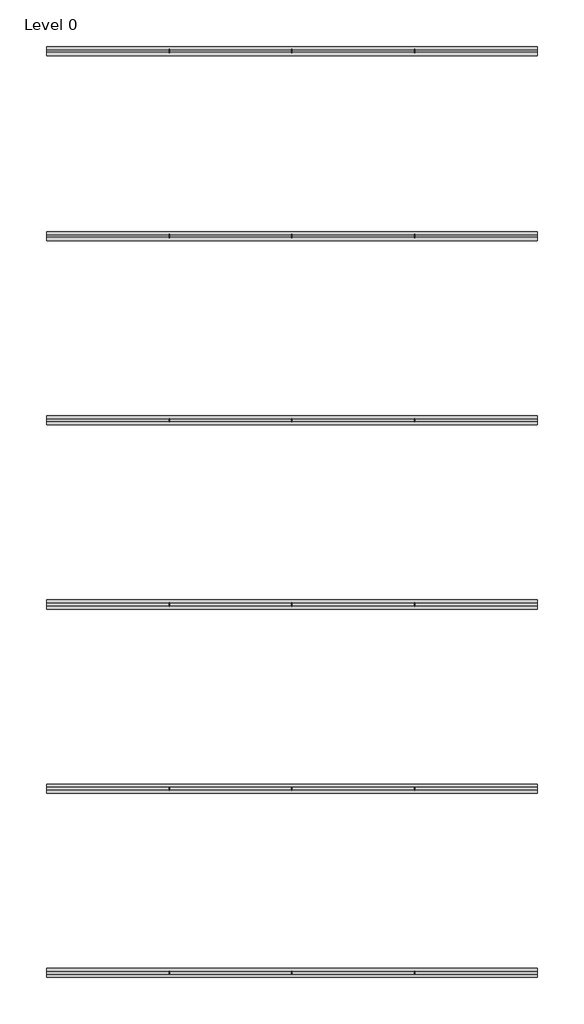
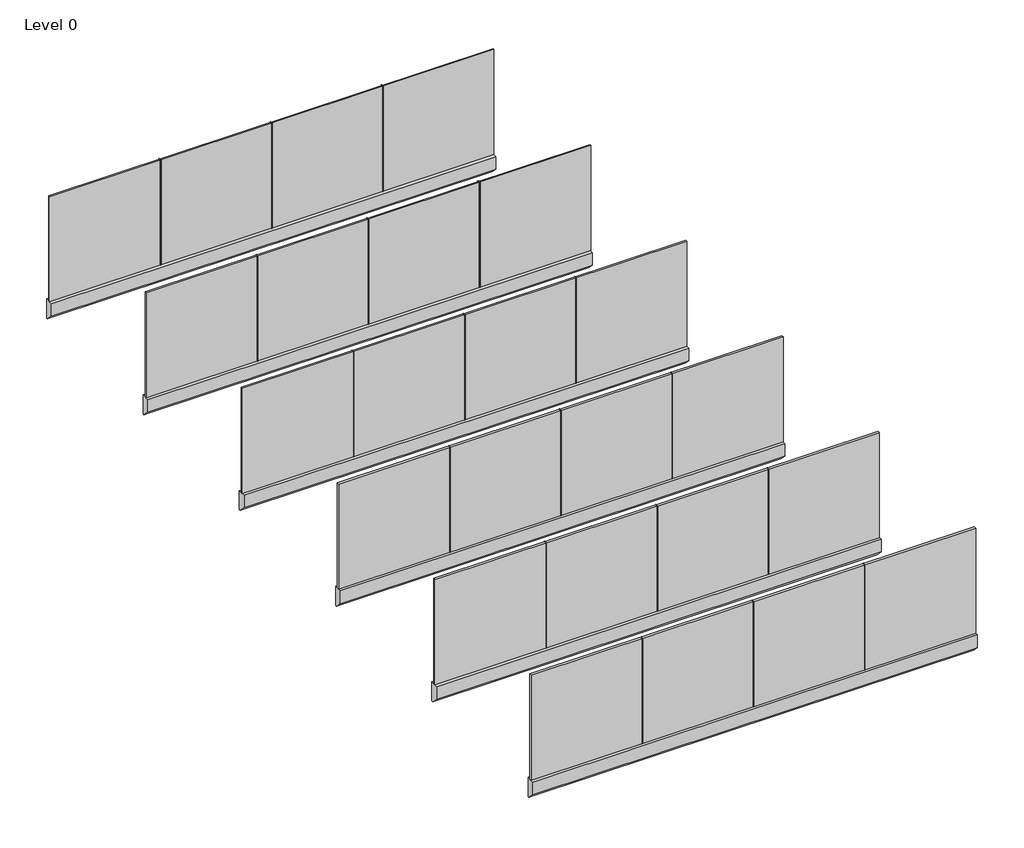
# One storey: 6 railings.
"""IFC4 building model written with IfcOpenShell, lengths in millimetres."""

from ifc_helpers import new_model, si_unit, frame, origin, place, context, project, spatial, polyline, outline, extrude, element, save

model = new_model("IFC4")

# Units and contexts
model_context = context("Model", 3, world=origin())
ifc_project = project(units=[si_unit("LENGTHUNIT", "METRE", prefix="MILLI")], contexts=[model_context])

# Site, building, storey
site = spatial("IfcSite", under=ifc_project)
building = spatial("IfcBuilding", under=site)
storey = spatial("IfcBuildingStorey", under=building, Name="Level 0", Elevation=0.0)

# Railings
placement = place(None, origin())
element("IfcRailing", 1, ObjectType="NBS_PureVistaLtd_BalustradeAndGuardingSystem_PoziglazesideDrilledBalustrade_12mmglass", at=placement, inside=storey, context=model_context, shape_type="SweptSolid", body=[
    extrude(outline(polyline([(-2000.0, -31.3), (-2000.0, -19.3), (2000.0, -19.3), (2000.0, -31.3), (-2000.0, -31.3)])), frame((0.0, 0.0, 119.5), z_axis=(0.0, 0.0, 1.0), x_axis=(1.0, 0.0, 0.0)), (0.0, 0.0, 1.0), 1000.0),
    extrude(outline(polyline([(-62.75, 119.5), (11.75, 119.5), (11.75, -62.5), (-0.25, -62.5), (-62.75, 0.0), (-62.75, 119.5)])), frame((-2000.0, 0.0, 0.0), z_axis=(1.0, 0.0, 0.0), x_axis=(0.0, 1.0, 0.0)), (0.0, 0.0, 1.0), 4000.0),
    extrude(outline(polyline([(998.0, -12.3), (1002.0, -12.3), (1002.0, -38.3), (998.0, -38.3), (998.0, -12.3)])), frame((0.0, 0.0, 119.5), z_axis=(0.0, 0.0, 1.0), x_axis=(1.0, 0.0, 0.0)), (0.0, 0.0, 1.0), 1001.0),
    extrude(outline(polyline([(-2.0, -12.3), (2.0, -12.3), (2.0, -38.3), (-2.0, -38.3), (-2.0, -12.3)])), frame((0.0, 0.0, 119.5), z_axis=(0.0, 0.0, 1.0), x_axis=(1.0, 0.0, 0.0)), (0.0, 0.0, 1.0), 1001.0),
    extrude(outline(polyline([(-1002.0, -12.3), (-998.0, -12.3), (-998.0, -38.3), (-1002.0, -38.3), (-1002.0, -12.3)])), frame((0.0, 0.0, 119.5), z_axis=(0.0, 0.0, 1.0), x_axis=(1.0, 0.0, 0.0)), (0.0, 0.0, 1.0), 1001.0),
])
element("IfcRailing", 2, ObjectType="NBS_PureVistaLtd_BalustradeAndGuardingSystem_PoziglazesideDrilledBalustrade_15mmglass", at=placement, inside=storey, context=model_context, shape_type="SweptSolid", body=[
    extrude(outline(polyline([(-2000.0, -1538.8), (-2000.0, -1523.8), (2000.0, -1523.8), (2000.0, -1538.8), (-2000.0, -1538.8)])), frame((0.0, 0.0, 119.5), z_axis=(0.0, 0.0, 1.0), x_axis=(1.0, 0.0, 0.0)), (0.0, 0.0, 1.0), 1000.0),
    extrude(outline(polyline([(-1568.75, 119.5), (-1494.25, 119.5), (-1494.25, -62.5), (-1506.25, -62.5), (-1568.75, 0.0), (-1568.75, 119.5)])), frame((-2000.0, 0.0, 0.0), z_axis=(1.0, 0.0, 0.0), x_axis=(0.0, 1.0, 0.0)), (0.0, 0.0, 1.0), 4000.0),
    extrude(outline(polyline([(998.0, -1518.3), (1002.0, -1518.3), (1002.0, -1544.3), (998.0, -1544.3), (998.0, -1518.3)])), frame((0.0, 0.0, 119.5), z_axis=(0.0, 0.0, 1.0), x_axis=(1.0, 0.0, 0.0)), (0.0, 0.0, 1.0), 1001.0),
    extrude(outline(polyline([(-2.0, -1518.3), (2.0, -1518.3), (2.0, -1544.3), (-2.0, -1544.3), (-2.0, -1518.3)])), frame((0.0, 0.0, 119.5), z_axis=(0.0, 0.0, 1.0), x_axis=(1.0, 0.0, 0.0)), (0.0, 0.0, 1.0), 1001.0),
    extrude(outline(polyline([(-1002.0, -1518.3), (-998.0, -1518.3), (-998.0, -1544.3), (-1002.0, -1544.3), (-1002.0, -1518.3)])), frame((0.0, 0.0, 119.5), z_axis=(0.0, 0.0, 1.0), x_axis=(1.0, 0.0, 0.0)), (0.0, 0.0, 1.0), 1001.0),
])
element("IfcRailing", 3, ObjectType="NBS_PureVistaLtd_BalustradeAndGuardingSystem_PoziglazesideDrilledBalustrade_17-5mmglass", at=placement, inside=storey, context=model_context, shape_type="SweptSolid", body=[
    extrude(outline(polyline([(-2000.0, -3040.05), (-2000.0, -3022.55), (2000.0, -3022.55), (2000.0, -3040.05), (-2000.0, -3040.05)])), frame((0.0, 0.0, 119.5), z_axis=(0.0, 0.0, 1.0), x_axis=(1.0, 0.0, 0.0)), (0.0, 0.0, 1.0), 1000.0),
    extrude(outline(polyline([(-3068.75, 119.5), (-2994.25, 119.5), (-2994.25, -62.5), (-3006.25, -62.5), (-3068.75, 0.0), (-3068.75, 119.5)])), frame((-2000.0, 0.0, 0.0), z_axis=(1.0, 0.0, 0.0), x_axis=(0.0, 1.0, 0.0)), (0.0, 0.0, 1.0), 4000.0),
    extrude(outline(polyline([(998.0, -3018.3), (1002.0, -3018.3), (1002.0, -3044.3), (998.0, -3044.3), (998.0, -3018.3)])), frame((0.0, 0.0, 119.5), z_axis=(0.0, 0.0, 1.0), x_axis=(1.0, 0.0, 0.0)), (0.0, 0.0, 1.0), 1001.0),
    extrude(outline(polyline([(-2.0, -3018.3), (2.0, -3018.3), (2.0, -3044.3), (-2.0, -3044.3), (-2.0, -3018.3)])), frame((0.0, 0.0, 119.5), z_axis=(0.0, 0.0, 1.0), x_axis=(1.0, 0.0, 0.0)), (0.0, 0.0, 1.0), 1001.0),
    extrude(outline(polyline([(-1002.0, -3018.3), (-998.0, -3018.3), (-998.0, -3044.3), (-1002.0, -3044.3), (-1002.0, -3018.3)])), frame((0.0, 0.0, 119.5), z_axis=(0.0, 0.0, 1.0), x_axis=(1.0, 0.0, 0.0)), (0.0, 0.0, 1.0), 1001.0),
])
element("IfcRailing", 4, ObjectType="NBS_PureVistaLtd_BalustradeAndGuardingSystem_PoziglazesideDrilledBalustrade_19mmglass", at=placement, inside=storey, context=model_context, shape_type="SweptSolid", body=[
    extrude(outline(polyline([(-2000.0, -4540.8), (-2000.0, -4521.8), (2000.0, -4521.8), (2000.0, -4540.8), (-2000.0, -4540.8)])), frame((0.0, 0.0, 119.5), z_axis=(0.0, 0.0, 1.0), x_axis=(1.0, 0.0, 0.0)), (0.0, 0.0, 1.0), 1000.0),
    extrude(outline(polyline([(-4568.75, 119.5), (-4494.25, 119.5), (-4494.25, -62.5), (-4506.25, -62.5), (-4568.75, 0.0), (-4568.75, 119.5)])), frame((-2000.0, 0.0, 0.0), z_axis=(1.0, 0.0, 0.0), x_axis=(0.0, 1.0, 0.0)), (0.0, 0.0, 1.0), 4000.0),
    extrude(outline(polyline([(998.0, -4518.3), (1002.0, -4518.3), (1002.0, -4544.3), (998.0, -4544.3), (998.0, -4518.3)])), frame((0.0, 0.0, 119.5), z_axis=(0.0, 0.0, 1.0), x_axis=(1.0, 0.0, 0.0)), (0.0, 0.0, 1.0), 1001.0),
    extrude(outline(polyline([(-2.0, -4518.3), (2.0, -4518.3), (2.0, -4544.3), (-2.0, -4544.3), (-2.0, -4518.3)])), frame((0.0, 0.0, 119.5), z_axis=(0.0, 0.0, 1.0), x_axis=(1.0, 0.0, 0.0)), (0.0, 0.0, 1.0), 1001.0),
    extrude(outline(polyline([(-1002.0, -4518.3), (-998.0, -4518.3), (-998.0, -4544.3), (-1002.0, -4544.3), (-1002.0, -4518.3)])), frame((0.0, 0.0, 119.5), z_axis=(0.0, 0.0, 1.0), x_axis=(1.0, 0.0, 0.0)), (0.0, 0.0, 1.0), 1001.0),
])
element("IfcRailing", 5, ObjectType="NBS_PureVistaLtd_BalustradeAndGuardingSystem_PoziglazesideDrilledBalustrade_21-5mmglass", at=placement, inside=storey, context=model_context, shape_type="SweptSolid", body=[
    extrude(outline(polyline([(-2000.0, -6042.05), (-2000.0, -6020.55), (2000.0, -6020.55), (2000.0, -6042.05), (-2000.0, -6042.05)])), frame((0.0, 0.0, 119.5), z_axis=(0.0, 0.0, 1.0), x_axis=(1.0, 0.0, 0.0)), (0.0, 0.0, 1.0), 1000.0),
    extrude(outline(polyline([(-6068.75, 119.5), (-5994.25, 119.5), (-5994.25, -62.5), (-6006.25, -62.5), (-6068.75, 0.0), (-6068.75, 119.5)])), frame((-2000.0, 0.0, 0.0), z_axis=(1.0, 0.0, 0.0), x_axis=(0.0, 1.0, 0.0)), (0.0, 0.0, 1.0), 4000.0),
    extrude(outline(polyline([(998.0, -6018.3), (1002.0, -6018.3), (1002.0, -6044.3), (998.0, -6044.3), (998.0, -6018.3)])), frame((0.0, 0.0, 119.5), z_axis=(0.0, 0.0, 1.0), x_axis=(1.0, 0.0, 0.0)), (0.0, 0.0, 1.0), 1001.0),
    extrude(outline(polyline([(-2.0, -6018.3), (2.0, -6018.3), (2.0, -6044.3), (-2.0, -6044.3), (-2.0, -6018.3)])), frame((0.0, 0.0, 119.5), z_axis=(0.0, 0.0, 1.0), x_axis=(1.0, 0.0, 0.0)), (0.0, 0.0, 1.0), 1001.0),
    extrude(outline(polyline([(-1002.0, -6018.3), (-998.0, -6018.3), (-998.0, -6044.3), (-1002.0, -6044.3), (-1002.0, -6018.3)])), frame((0.0, 0.0, 119.5), z_axis=(0.0, 0.0, 1.0), x_axis=(1.0, 0.0, 0.0)), (0.0, 0.0, 1.0), 1001.0),
])
element("IfcRailing", 6, ObjectType="NBS_PureVistaLtd_BalustradeAndGuardingSystem_PoziglazesideDrilledBalustrade_21-5mmSentryGlass", at=placement, inside=storey, context=model_context, shape_type="SweptSolid", body=[
    extrude(outline(polyline([(-2000.0, -7542.05), (-2000.0, -7520.55), (2000.0, -7520.55), (2000.0, -7542.05), (-2000.0, -7542.05)])), frame((0.0, 0.0, 119.5), z_axis=(0.0, 0.0, 1.0), x_axis=(1.0, 0.0, 0.0)), (0.0, 0.0, 1.0), 1000.0),
    extrude(outline(polyline([(-7568.75, 119.5), (-7494.25, 119.5), (-7494.25, -62.5), (-7506.25, -62.5), (-7568.75, 0.0), (-7568.75, 119.5)])), frame((-2000.0, 0.0, 0.0), z_axis=(1.0, 0.0, 0.0), x_axis=(0.0, 1.0, 0.0)), (0.0, 0.0, 1.0), 4000.0),
    extrude(outline(polyline([(998.0, -7518.3), (1002.0, -7518.3), (1002.0, -7544.3), (998.0, -7544.3), (998.0, -7518.3)])), frame((0.0, 0.0, 119.5), z_axis=(0.0, 0.0, 1.0), x_axis=(1.0, 0.0, 0.0)), (0.0, 0.0, 1.0), 1001.0),
    extrude(outline(polyline([(-2.0, -7518.3), (2.0, -7518.3), (2.0, -7544.3), (-2.0, -7544.3), (-2.0, -7518.3)])), frame((0.0, 0.0, 119.5), z_axis=(0.0, 0.0, 1.0), x_axis=(1.0, 0.0, 0.0)), (0.0, 0.0, 1.0), 1001.0),
    extrude(outline(polyline([(-1002.0, -7518.3), (-998.0, -7518.3), (-998.0, -7544.3), (-1002.0, -7544.3), (-1002.0, -7518.3)])), frame((0.0, 0.0, 119.5), z_axis=(0.0, 0.0, 1.0), x_axis=(1.0, 0.0, 0.0)), (0.0, 0.0, 1.0), 1001.0),
])

save(model, "model.ifc")
